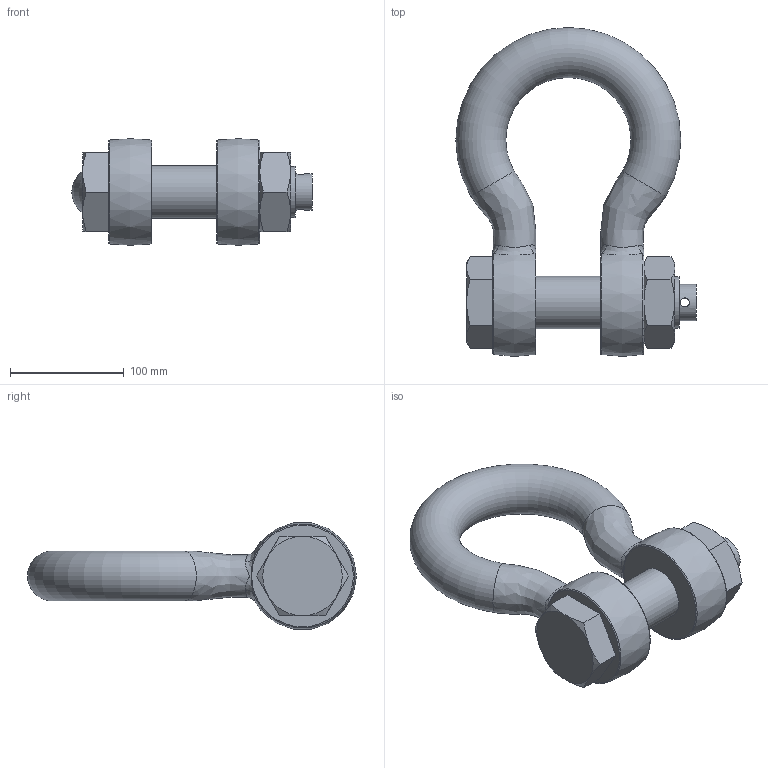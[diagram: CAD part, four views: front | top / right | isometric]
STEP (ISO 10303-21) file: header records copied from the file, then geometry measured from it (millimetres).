
FILE_DESCRIPTION(/* description */ (''),/* implementation_level */ '2;1');
FILE_NAME(/* name */ 'C:\Users\D\Documents\Inventor\HP\吊具\シャックル\BB_2\bb_38.stp',/* time_stamp */ '2024-11-20T10:47:29+09:00',/* author */ ('D'),/* organization */ (''),/* preprocessor_version */ 'ST-DEVELOPER v18',/* originating_system */ 'Autodesk Inventor 2020',/* authorisation */ '');
FILE_SCHEMA (('AUTOMOTIVE_DESIGN { 1 0 10303 214 3 1 1 }'));
Length unit declared in the file: millimetre
Products named in the file (3): bb_38; ba_6; sb_pin_10
Assembly tree (2 placements, depth 2):
  bb_38
    ba_6
    sb_pin_10
Bounding box: 211.5 x 289.5 x 93.67 mm (x, y, z)
Volume: 1495824.5 mm3; surface area: 164583.9 mm2
Topology: 4 solids, 4 shells, 69 faces, 169 edges, 109 vertices
Faces by surface type: plane 26, cone 19, bspline 12, cylinder 7, torus 5
Full cylindrical faces by diameter (mm): 8 x1, 32 x1, 45 x2, 46 x1, 47 x2
Entity records: 3461 total; most frequent: CARTESIAN_POINT 1872, ORIENTED_EDGE 334, DIRECTION 293, EDGE_CURVE 167, AXIS2_PLACEMENT_3D 133, VERTEX_POINT 109, EDGE_LOOP 78, CIRCLE 71
